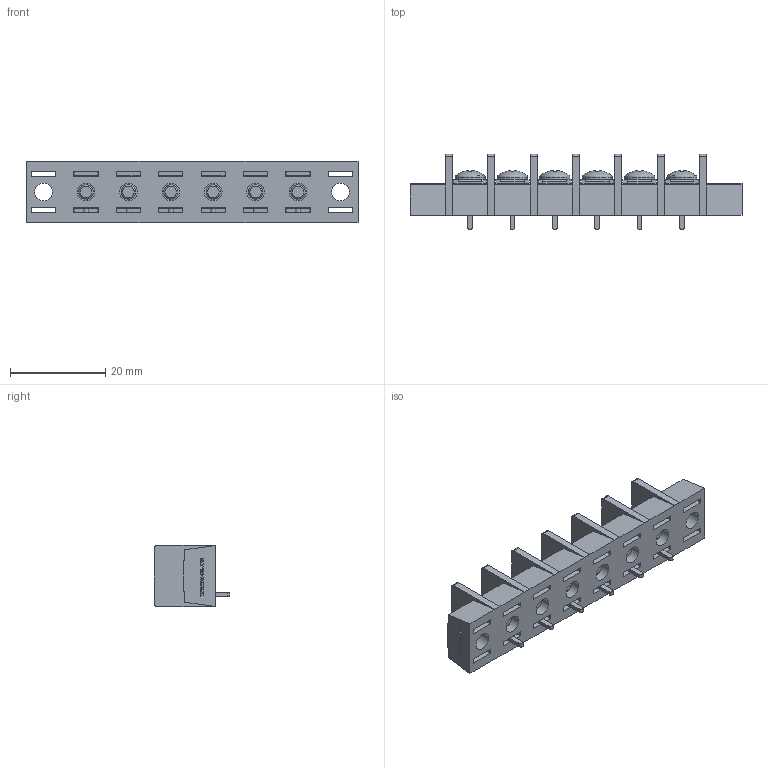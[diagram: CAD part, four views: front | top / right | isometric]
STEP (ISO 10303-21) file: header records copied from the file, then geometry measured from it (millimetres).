
FILE_DESCRIPTION(/* description */ ('Alibre Inc.'),/* implementation_level */ '2;1');
FILE_NAME(/* name */ 'export0',/* time_stamp */ '2015-10-20T19:50:56+09:00',/* author */ (''),/* organization */ (''),/* preprocessor_version */ 'ST-DEVELOPER v14',/* originating_system */ 'Alibre',/* authorisation */ '');
FILE_SCHEMA (('CONFIG_CONTROL_DESIGN'));
Length unit declared in the file: centimetre
Products named in the file (1): ID_1
Bounding box: 69.63 x 15.8 x 12.8 mm (x, y, z)
Volume: 5974.4 mm3; surface area: 7380.6 mm2
Topology: 1 solids, 103 shells, 2098 faces, 5404 edges, 3578 vertices
Faces by surface type: plane 1568, bspline 416, cylinder 66, cone 30, torus 12, sphere 6
Full cylindrical faces by diameter (mm): 3 x12, 3.7 x8, 4.6 x8, 6.3 x6
Entity records: 60877 total; most frequent: CARTESIAN_POINT 14753, ORIENTED_EDGE 10664, DIRECTION 6354, EDGE_CURVE 5332, VECTOR 4120, LINE 4120, VERTEX_POINT 3558, EDGE_LOOP 2312
